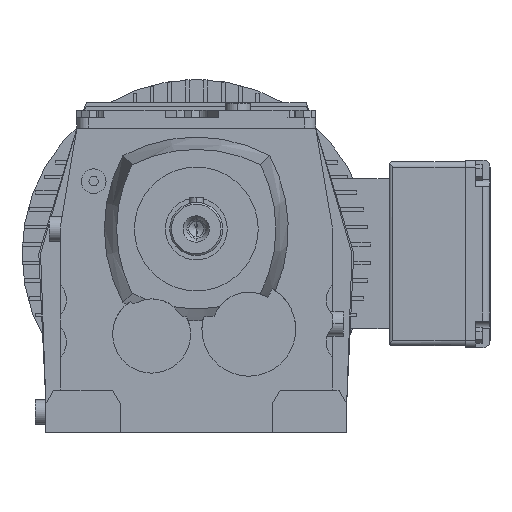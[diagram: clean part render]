
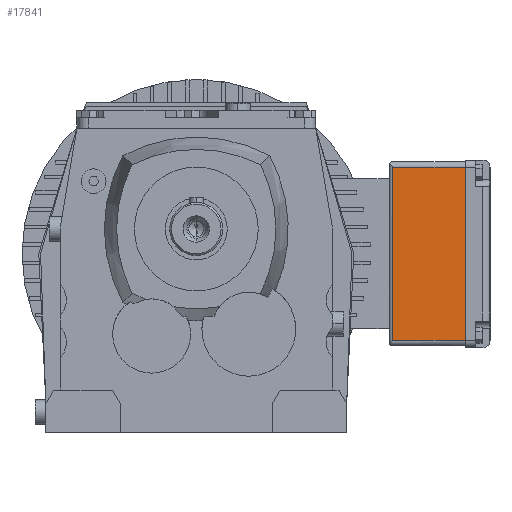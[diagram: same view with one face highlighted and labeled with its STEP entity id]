
A CAD part, left-side view. The second image highlights one B-rep face of the part: STEP entity #17841.
In plain terms, the highlighted planar face has unit normal (-1, 0, 0).
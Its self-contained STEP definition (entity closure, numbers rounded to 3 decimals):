
#17647=CARTESIAN_POINT('POINT973',(343.,-111.,34.994));
#17648=VERTEX_POINT('VERTEX973',#17647);
#17690=CARTESIAN_POINT('POINT977',(343.,-111.,-63.006));
#17691=VERTEX_POINT('VERTEX977',#17690);
#17707=CARTESIAN_POINT('POS1807',(343.,-111.,37.994));
#17708=DIRECTION('DIR2545',(0.,0.,1.));
#17709=VECTOR('VEC1069',#17708,1.);
#17710=LINE('STRAIGHT1069',#17707,#17709);
#17711=EDGE_CURVE('EDGE1487',#17691,#17648,#17710,.T.);
#17811=CARTESIAN_POINT('POINT983',(343.,-152.,-63.006));
#17812=VERTEX_POINT('VERTEX983',#17811);
#17813=CARTESIAN_POINT('POS1816',(343.,-109.,-63.006));
#17814=DIRECTION('DIR2558',(0.,-1.,0.));
#17815=VECTOR('VEC1074',#17814,1.);
#17816=LINE('STRAIGHT1074',#17813,#17815);
#17817=EDGE_CURVE('EDGE1495',#17691,#17812,#17816,.T.);
#17818=ORIENTED_EDGE('COEDGE2979',*,*,#17817,.T.);
#17819=CARTESIAN_POINT('POINT984',(343.,-152.,34.994));
#17820=VERTEX_POINT('VERTEX984',#17819);
#17821=CARTESIAN_POINT('POS1817',(343.,-152.,-63.006));
#17822=DIRECTION('DIR2559',(0.,0.,1.));
#17823=VECTOR('VEC1075',#17822,1.);
#17824=LINE('STRAIGHT1075',#17821,#17823);
#17825=EDGE_CURVE('EDGE1496',#17812,#17820,#17824,.T.);
#17826=ORIENTED_EDGE('COEDGE2980',*,*,#17825,.T.);
#17827=CARTESIAN_POINT('POS1818',(343.,-109.,34.994));
#17828=DIRECTION('DIR2560',(0.,-1.,0.));
#17829=VECTOR('VEC1076',#17828,1.);
#17830=LINE('STRAIGHT1076',#17827,#17829);
#17831=EDGE_CURVE('EDGE1497',#17648,#17820,#17830,.T.);
#17832=ORIENTED_EDGE('COEDGE2981',*,*,#17831,.F.);
#17833=ORIENTED_EDGE('COEDGE2982',*,*,#17711,.F.);
#17834=EDGE_LOOP('NONE',(#17818,#17826,#17832,#17833));
#17835=FACE_BOUND('LOOP1',#17834,.T.);
#17836=CARTESIAN_POINT('POS1819',(343.,-109.,-63.006));
#17837=DIRECTION('DIR2561',(-1.,0.,0.));
#17838=DIRECTION('DIR2562',(0.,1.,0.));
#17839=AXIS2_PLACEMENT_3D('AXIS743',#17836,#17837,#17838);
#17840=PLANE('PLANE441',#17839);
#17841=ADVANCED_FACE('FACE606',(#17835),#17840,.T.);
